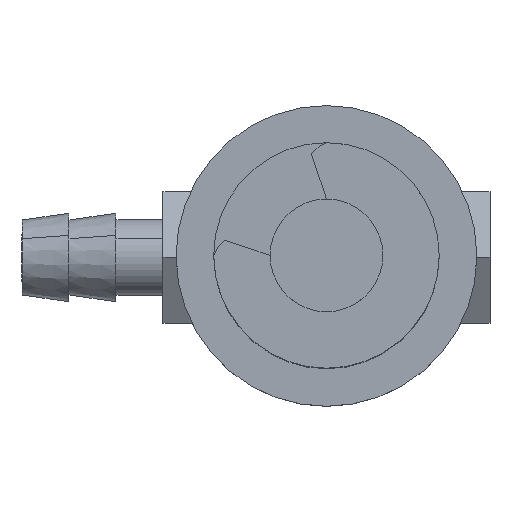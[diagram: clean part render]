
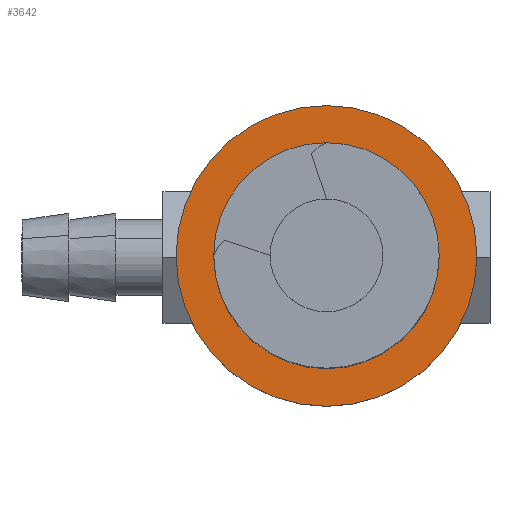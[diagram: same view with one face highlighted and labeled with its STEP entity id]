
A CAD part, top view. The second image highlights one B-rep face of the part: STEP entity #3642.
In plain terms, the highlighted planar face has unit normal (0, 0, 1).
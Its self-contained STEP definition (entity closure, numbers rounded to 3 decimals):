
#271 = EDGE_LOOP ( 'NONE', ( #8896, #12088 ) ) ;
#666 = CIRCLE ( 'NONE', #9287, 8. ) ;
#1153 = DIRECTION ( 'NONE',  ( 0., 0., 1. ) ) ;
#1462 = CARTESIAN_POINT ( 'NONE',  ( -0.057, -1.107, 21.5 ) ) ;
#1626 = FACE_BOUND ( 'NONE', #271, .T. ) ;
#2439 = DIRECTION ( 'NONE',  ( -1., 0., 0. ) ) ;
#2675 = DIRECTION ( 'NONE',  ( 0., 0., 1. ) ) ;
#2715 = AXIS2_PLACEMENT_3D ( 'NONE', #1462, #8465, #2439 ) ;
#3085 = CARTESIAN_POINT ( 'NONE',  ( -0.057, -1.107, 21.5 ) ) ;
#3281 = CIRCLE ( 'NONE', #7954, 6. ) ;
#3642 = ADVANCED_FACE ( 'NONE', ( #1626, #9283 ), #9255, .T. ) ;
#4040 = DIRECTION ( 'NONE',  ( 0., 0., -1. ) ) ;
#4078 = DIRECTION ( 'NONE',  ( -1., 0., 0. ) ) ;
#4340 = VERTEX_POINT ( 'NONE', #7067 ) ;
#5587 = ORIENTED_EDGE ( 'NONE', *, *, #6554, .T. ) ;
#5653 = CIRCLE ( 'NONE', #9944, 8. ) ;
#6087 = CIRCLE ( 'NONE', #2715, 6. ) ;
#6207 = AXIS2_PLACEMENT_3D ( 'NONE', #7225, #2675, #11435 ) ;
#6479 = EDGE_CURVE ( 'NONE', #11010, #10227, #3281, .T. ) ;
#6554 = EDGE_CURVE ( 'NONE', #10589, #4340, #666, .T. ) ;
#6641 = EDGE_CURVE ( 'NONE', #4340, #10589, #5653, .T. ) ;
#7067 = CARTESIAN_POINT ( 'NONE',  ( 7.943, -1.107, 21.5 ) ) ;
#7127 = CARTESIAN_POINT ( 'NONE',  ( -0.057, -1.107, 21.5 ) ) ;
#7225 = CARTESIAN_POINT ( 'NONE',  ( -8.153, -9.203, 21.5 ) ) ;
#7954 = AXIS2_PLACEMENT_3D ( 'NONE', #10049, #4040, #11035 ) ;
#8012 = CARTESIAN_POINT ( 'NONE',  ( -6.057, -1.107, 21.5 ) ) ;
#8145 = DIRECTION ( 'NONE',  ( -1., 0., 0. ) ) ;
#8465 = DIRECTION ( 'NONE',  ( 0., 0., -1. ) ) ;
#8896 = ORIENTED_EDGE ( 'NONE', *, *, #11711, .T. ) ;
#9190 = CARTESIAN_POINT ( 'NONE',  ( -8.057, -1.107, 21.5 ) ) ;
#9255 = PLANE ( 'NONE',  #6207 ) ;
#9283 = FACE_OUTER_BOUND ( 'NONE', #11026, .T. ) ;
#9287 = AXIS2_PLACEMENT_3D ( 'NONE', #3085, #10096, #4078 ) ;
#9944 = AXIS2_PLACEMENT_3D ( 'NONE', #7127, #1153, #8145 ) ;
#10049 = CARTESIAN_POINT ( 'NONE',  ( -0.057, -1.107, 21.5 ) ) ;
#10096 = DIRECTION ( 'NONE',  ( 0., 0., 1. ) ) ;
#10227 = VERTEX_POINT ( 'NONE', #8012 ) ;
#10589 = VERTEX_POINT ( 'NONE', #9190 ) ;
#10879 = ORIENTED_EDGE ( 'NONE', *, *, #6641, .T. ) ;
#10882 = CARTESIAN_POINT ( 'NONE',  ( 5.943, -1.107, 21.5 ) ) ;
#11010 = VERTEX_POINT ( 'NONE', #10882 ) ;
#11026 = EDGE_LOOP ( 'NONE', ( #5587, #10879 ) ) ;
#11035 = DIRECTION ( 'NONE',  ( -1., 0., 0. ) ) ;
#11435 = DIRECTION ( 'NONE',  ( 1., 0., 0. ) ) ;
#11711 = EDGE_CURVE ( 'NONE', #10227, #11010, #6087, .T. ) ;
#12088 = ORIENTED_EDGE ( 'NONE', *, *, #6479, .T. ) ;
